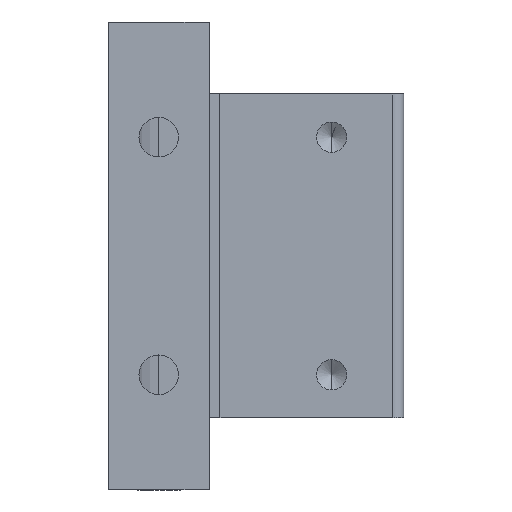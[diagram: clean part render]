
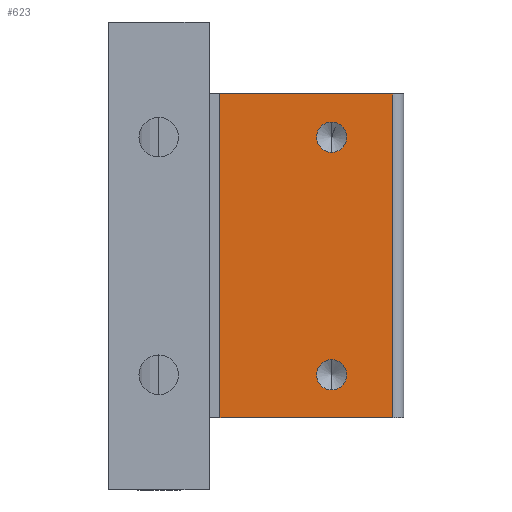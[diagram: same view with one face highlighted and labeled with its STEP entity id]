
A CAD part, front view. The second image highlights one B-rep face of the part: STEP entity #623.
In plain terms, the highlighted planar face has unit normal (0, -1, 0).
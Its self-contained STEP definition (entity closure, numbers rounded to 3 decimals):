
#22 = VECTOR ( 'NONE', #194, 1000. ) ;
#38 = VERTEX_POINT ( 'NONE', #834 ) ;
#56 = CARTESIAN_POINT ( 'NONE',  ( 1.5, 0., 10. ) ) ;
#113 = VERTEX_POINT ( 'NONE', #1326 ) ;
#120 = VERTEX_POINT ( 'NONE', #1361 ) ;
#194 = DIRECTION ( 'NONE',  ( 0., 0., -1. ) ) ;
#208 = FACE_OUTER_BOUND ( 'NONE', #1130, .T. ) ;
#252 = LINE ( 'NONE', #1364, #1084 ) ;
#259 = CARTESIAN_POINT ( 'NONE',  ( 25.504, 0., 55. ) ) ;
#297 = EDGE_CURVE ( 'NONE', #38, #1839, #467, .T. ) ;
#316 = EDGE_CURVE ( 'NONE', #393, #2027, #816, .T. ) ;
#343 = EDGE_CURVE ( 'NONE', #120, #113, #785, .T. ) ;
#350 = DIRECTION ( 'NONE',  ( 0., 0., -1. ) ) ;
#373 = DIRECTION ( 'NONE',  ( 0., 1., 0. ) ) ;
#382 = DIRECTION ( 'NONE',  ( -1., 0., 0. ) ) ;
#384 = CARTESIAN_POINT ( 'NONE',  ( 25.504, 0., 55. ) ) ;
#393 = VERTEX_POINT ( 'NONE', #1689 ) ;
#394 = FACE_BOUND ( 'NONE', #1827, .T. ) ;
#415 = DIRECTION ( 'NONE',  ( 0., 0., -1. ) ) ;
#467 = LINE ( 'NONE', #1533, #1514 ) ;
#484 = CIRCLE ( 'NONE', #1546, 2.1 ) ;
#502 = LINE ( 'NONE', #1760, #714 ) ;
#547 = AXIS2_PLACEMENT_3D ( 'NONE', #1541, #568, #1047 ) ;
#553 = ORIENTED_EDGE ( 'NONE', *, *, #297, .F. ) ;
#562 = CARTESIAN_POINT ( 'NONE',  ( 17., 0., 18.1 ) ) ;
#568 = DIRECTION ( 'NONE',  ( 0., -1., 0. ) ) ;
#599 = CARTESIAN_POINT ( 'NONE',  ( 17., 0., 16. ) ) ;
#622 = AXIS2_PLACEMENT_3D ( 'NONE', #599, #1240, #1543 ) ;
#623 = ADVANCED_FACE ( 'NONE', ( #394, #1332, #208 ), #840, .F. ) ;
#624 = VERTEX_POINT ( 'NONE', #56 ) ;
#714 = VECTOR ( 'NONE', #350, 1000. ) ;
#734 = DIRECTION ( 'NONE',  ( 0., -1., 0. ) ) ;
#754 = ORIENTED_EDGE ( 'NONE', *, *, #316, .F. ) ;
#785 = CIRCLE ( 'NONE', #1388, 2.1 ) ;
#816 = CIRCLE ( 'NONE', #622, 2.1 ) ;
#834 = CARTESIAN_POINT ( 'NONE',  ( 1.5, 0., 55. ) ) ;
#840 = PLANE ( 'NONE',  #1085 ) ;
#915 = ORIENTED_EDGE ( 'NONE', *, *, #1138, .T. ) ;
#934 = DIRECTION ( 'NONE',  ( 0., 0., -1. ) ) ;
#1047 = DIRECTION ( 'NONE',  ( 0., 0., -1. ) ) ;
#1067 = CARTESIAN_POINT ( 'NONE',  ( 25.504, 0., 10. ) ) ;
#1072 = CARTESIAN_POINT ( 'NONE',  ( 17., 0., 49. ) ) ;
#1084 = VECTOR ( 'NONE', #1551, 1000. ) ;
#1085 = AXIS2_PLACEMENT_3D ( 'NONE', #1165, #373, #382 ) ;
#1095 = VERTEX_POINT ( 'NONE', #1067 ) ;
#1130 = EDGE_LOOP ( 'NONE', ( #915, #1906, #553, #1853 ) ) ;
#1138 = EDGE_CURVE ( 'NONE', #624, #1095, #252, .T. ) ;
#1165 = CARTESIAN_POINT ( 'NONE',  ( 1.5, 0., 55. ) ) ;
#1171 = ORIENTED_EDGE ( 'NONE', *, *, #1830, .F. ) ;
#1240 = DIRECTION ( 'NONE',  ( 0., -1., 0. ) ) ;
#1326 = CARTESIAN_POINT ( 'NONE',  ( 17., 0., 46.9 ) ) ;
#1332 = FACE_BOUND ( 'NONE', #1776, .T. ) ;
#1361 = CARTESIAN_POINT ( 'NONE',  ( 17., 0., 51.1 ) ) ;
#1364 = CARTESIAN_POINT ( 'NONE',  ( 1.5, 0., 10. ) ) ;
#1378 = DIRECTION ( 'NONE',  ( 1., 0., 0. ) ) ;
#1388 = AXIS2_PLACEMENT_3D ( 'NONE', #1072, #734, #934 ) ;
#1508 = CARTESIAN_POINT ( 'NONE',  ( 17., 0., 49. ) ) ;
#1514 = VECTOR ( 'NONE', #1378, 1000. ) ;
#1533 = CARTESIAN_POINT ( 'NONE',  ( 1.5, 0., 55. ) ) ;
#1541 = CARTESIAN_POINT ( 'NONE',  ( 17., 0., 16. ) ) ;
#1543 = DIRECTION ( 'NONE',  ( 0., 0., -1. ) ) ;
#1546 = AXIS2_PLACEMENT_3D ( 'NONE', #1508, #1826, #415 ) ;
#1551 = DIRECTION ( 'NONE',  ( 1., 0., 0. ) ) ;
#1553 = ORIENTED_EDGE ( 'NONE', *, *, #1803, .F. ) ;
#1575 = CIRCLE ( 'NONE', #547, 2.1 ) ;
#1595 = EDGE_CURVE ( 'NONE', #38, #624, #502, .T. ) ;
#1646 = EDGE_CURVE ( 'NONE', #1839, #1095, #1951, .T. ) ;
#1689 = CARTESIAN_POINT ( 'NONE',  ( 17., 0., 13.9 ) ) ;
#1760 = CARTESIAN_POINT ( 'NONE',  ( 1.5, 0., 55. ) ) ;
#1776 = EDGE_LOOP ( 'NONE', ( #754, #1553 ) ) ;
#1803 = EDGE_CURVE ( 'NONE', #2027, #393, #1575, .T. ) ;
#1826 = DIRECTION ( 'NONE',  ( 0., -1., 0. ) ) ;
#1827 = EDGE_LOOP ( 'NONE', ( #1171, #2030 ) ) ;
#1830 = EDGE_CURVE ( 'NONE', #113, #120, #484, .T. ) ;
#1839 = VERTEX_POINT ( 'NONE', #259 ) ;
#1853 = ORIENTED_EDGE ( 'NONE', *, *, #1595, .T. ) ;
#1906 = ORIENTED_EDGE ( 'NONE', *, *, #1646, .F. ) ;
#1951 = LINE ( 'NONE', #384, #22 ) ;
#2027 = VERTEX_POINT ( 'NONE', #562 ) ;
#2030 = ORIENTED_EDGE ( 'NONE', *, *, #343, .F. ) ;
